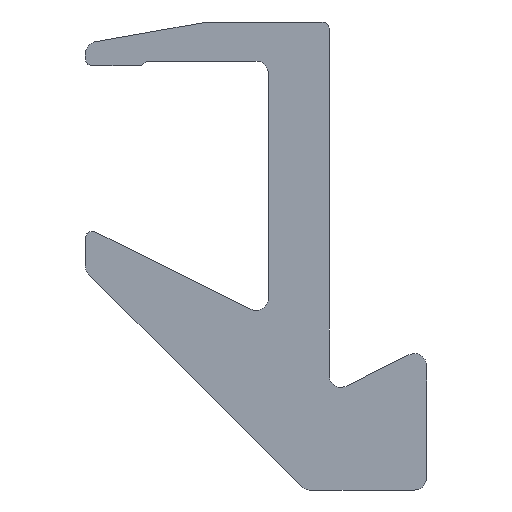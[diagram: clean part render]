
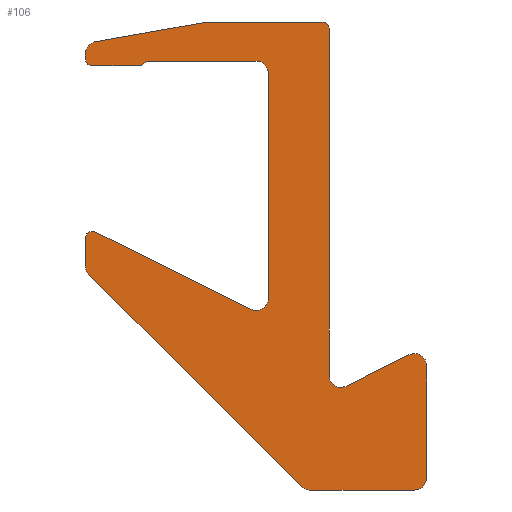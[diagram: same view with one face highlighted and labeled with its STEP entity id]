
A CAD part, left-side view. The second image highlights one B-rep face of the part: STEP entity #106.
In plain terms, the highlighted planar face has unit normal (-1, 0, 0).
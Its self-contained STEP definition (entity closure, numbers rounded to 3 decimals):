
#106=ADVANCED_FACE('',(#206),#207,.F.);
#206=FACE_OUTER_BOUND('',#297,.T.);
#207=PLANE('',#298);
#297=EDGE_LOOP('',(#539,#540,#541,#542,#543,#544,#545,#546,#547,#548,#549,#550,#551,#552,#553,#554,#555,#556,#557,#558,#559,#560,#561,#562,#563,#564));
#298=AXIS2_PLACEMENT_3D('',#565,#566,#567);
#539=ORIENTED_EDGE('',*,*,#626,.F.);
#540=ORIENTED_EDGE('',*,*,#650,.F.);
#541=ORIENTED_EDGE('',*,*,#672,.F.);
#542=ORIENTED_EDGE('',*,*,#669,.F.);
#543=ORIENTED_EDGE('',*,*,#619,.F.);
#544=ORIENTED_EDGE('',*,*,#665,.F.);
#545=ORIENTED_EDGE('',*,*,#642,.F.);
#546=ORIENTED_EDGE('',*,*,#663,.F.);
#547=ORIENTED_EDGE('',*,*,#639,.F.);
#548=ORIENTED_EDGE('',*,*,#569,.F.);
#549=ORIENTED_EDGE('',*,*,#637,.F.);
#550=ORIENTED_EDGE('',*,*,#584,.F.);
#551=ORIENTED_EDGE('',*,*,#623,.F.);
#552=ORIENTED_EDGE('',*,*,#667,.F.);
#553=ORIENTED_EDGE('',*,*,#589,.F.);
#554=ORIENTED_EDGE('',*,*,#646,.F.);
#555=ORIENTED_EDGE('',*,*,#634,.F.);
#556=ORIENTED_EDGE('',*,*,#594,.F.);
#557=ORIENTED_EDGE('',*,*,#579,.F.);
#558=ORIENTED_EDGE('',*,*,#661,.F.);
#559=ORIENTED_EDGE('',*,*,#658,.F.);
#560=ORIENTED_EDGE('',*,*,#630,.F.);
#561=ORIENTED_EDGE('',*,*,#648,.F.);
#562=ORIENTED_EDGE('',*,*,#574,.F.);
#563=ORIENTED_EDGE('',*,*,#656,.F.);
#564=ORIENTED_EDGE('',*,*,#653,.F.);
#565=CARTESIAN_POINT('',(0.0,-3.5,-19.5));
#566=DIRECTION('',(1.0,0.0,0.0));
#567=DIRECTION('',(0.0,1.0,0.0));
#569=EDGE_CURVE('',#675,#676,#677,.T.);
#574=EDGE_CURVE('',#684,#685,#686,.T.);
#579=EDGE_CURVE('',#693,#694,#695,.T.);
#584=EDGE_CURVE('',#702,#703,#704,.T.);
#589=EDGE_CURVE('',#711,#712,#713,.T.);
#594=EDGE_CURVE('',#694,#720,#721,.T.);
#619=EDGE_CURVE('',#762,#763,#764,.T.);
#623=EDGE_CURVE('',#768,#702,#769,.T.);
#626=EDGE_CURVE('',#772,#773,#774,.T.);
#630=EDGE_CURVE('',#778,#779,#780,.T.);
#634=EDGE_CURVE('',#720,#784,#785,.T.);
#637=EDGE_CURVE('',#703,#675,#788,.T.);
#639=EDGE_CURVE('',#676,#790,#791,.T.);
#642=EDGE_CURVE('',#794,#795,#796,.T.);
#646=EDGE_CURVE('',#784,#711,#800,.T.);
#648=EDGE_CURVE('',#685,#778,#802,.T.);
#650=EDGE_CURVE('',#804,#772,#805,.T.);
#653=EDGE_CURVE('',#773,#808,#809,.T.);
#656=EDGE_CURVE('',#808,#684,#812,.T.);
#658=EDGE_CURVE('',#779,#814,#815,.T.);
#661=EDGE_CURVE('',#814,#693,#818,.T.);
#663=EDGE_CURVE('',#790,#794,#820,.T.);
#665=EDGE_CURVE('',#795,#762,#822,.T.);
#667=EDGE_CURVE('',#712,#768,#824,.T.);
#669=EDGE_CURVE('',#763,#826,#827,.T.);
#672=EDGE_CURVE('',#826,#804,#830,.T.);
#675=VERTEX_POINT('',#833);
#676=VERTEX_POINT('',#834);
#677=LINE('',#835,#836);
#684=VERTEX_POINT('',#846);
#685=VERTEX_POINT('',#847);
#686=LINE('',#848,#849);
#693=VERTEX_POINT('',#859);
#694=VERTEX_POINT('',#860);
#695=CIRCLE('',#861,0.5);
#702=VERTEX_POINT('',#870);
#703=VERTEX_POINT('',#871);
#704=LINE('',#872,#873);
#711=VERTEX_POINT('',#883);
#712=VERTEX_POINT('',#884);
#713=LINE('',#885,#886);
#720=VERTEX_POINT('',#896);
#721=LINE('',#897,#898);
#762=VERTEX_POINT('',#950);
#763=VERTEX_POINT('',#951);
#764=CIRCLE('',#952,0.5);
#768=VERTEX_POINT('',#958);
#769=CIRCLE('',#959,0.3);
#772=VERTEX_POINT('',#963);
#773=VERTEX_POINT('',#964);
#774=CIRCLE('',#965,0.5);
#778=VERTEX_POINT('',#971);
#779=VERTEX_POINT('',#972);
#780=LINE('',#973,#974);
#784=VERTEX_POINT('',#980);
#785=CIRCLE('',#981,0.5);
#788=CIRCLE('',#985,0.5);
#790=VERTEX_POINT('',#987);
#791=CIRCLE('',#988,0.5);
#794=VERTEX_POINT('',#992);
#795=VERTEX_POINT('',#993);
#796=CIRCLE('',#994,0.3);
#800=LINE('',#1000,#1001);
#802=CIRCLE('',#1003,0.5);
#804=VERTEX_POINT('',#1005);
#805=LINE('',#1006,#1007);
#808=VERTEX_POINT('',#1011);
#809=LINE('',#1012,#1013);
#812=CIRCLE('',#1017,0.5);
#814=VERTEX_POINT('',#1019);
#815=CIRCLE('',#1020,0.3);
#818=LINE('',#1024,#1025);
#820=LINE('',#1027,#1028);
#822=LINE('',#1030,#1031);
#824=LINE('',#1033,#1034);
#826=VERTEX_POINT('',#1036);
#827=LINE('',#1037,#1038);
#830=CIRCLE('',#1042,0.5);
#833=CARTESIAN_POINT('',(0.0,9.587,-1.609));
#834=CARTESIAN_POINT('',(0.0,5.043,-0.808));
#835=CARTESIAN_POINT('',(0.0,9.587,-1.609));
#836=VECTOR('',#1044,1.0);
#846=CARTESIAN_POINT('',(0.0,1.146,-19.854));
#847=CARTESIAN_POINT('',(0.0,9.854,-11.146));
#848=CARTESIAN_POINT('',(0.0,1.146,-19.854));
#849=VECTOR('',#1048,1.0);
#859=CARTESIAN_POINT('',(0.0,3.223,-12.579));
#860=CARTESIAN_POINT('',(0.0,2.5,-12.131));
#861=AXIS2_PLACEMENT_3D('',#1052,#1053,#1054);
#870=CARTESIAN_POINT('',(0.0,10.,-2.3));
#871=CARTESIAN_POINT('',(0.0,10.,-2.101));
#872=CARTESIAN_POINT('',(0.0,10.,-2.3));
#873=VECTOR('',#1060,1.0);
#883=CARTESIAN_POINT('',(0.0,7.5,-2.4));
#884=CARTESIAN_POINT('',(0.0,7.7,-2.6));
#885=CARTESIAN_POINT('',(0.0,7.5,-2.4));
#886=VECTOR('',#1064,1.0);
#896=CARTESIAN_POINT('',(0.0,2.5,-2.9));
#897=CARTESIAN_POINT('',(0.0,2.5,-12.131));
#898=VECTOR('',#1068,1.0);
#950=CARTESIAN_POINT('',(0.0,0.,-15.286));
#951=CARTESIAN_POINT('',(0.0,-0.723,-15.734));
#952=AXIS2_PLACEMENT_3D('',#1113,#1114,#1115);
#958=CARTESIAN_POINT('',(0.0,9.7,-2.6));
#959=AXIS2_PLACEMENT_3D('',#1118,#1119,#1120);
#963=CARTESIAN_POINT('',(0.0,-4.,-19.5));
#964=CARTESIAN_POINT('',(0.0,-3.5,-20.));
#965=AXIS2_PLACEMENT_3D('',#1122,#1123,#1124);
#971=CARTESIAN_POINT('',(0.0,10.,-10.793));
#972=CARTESIAN_POINT('',(0.0,10.,-9.685));
#973=CARTESIAN_POINT('',(0.0,10.,-10.793));
#974=VECTOR('',#1127,1.0);
#980=CARTESIAN_POINT('',(0.0,3.,-2.4));
#981=AXIS2_PLACEMENT_3D('',#1130,#1131,#1132);
#985=AXIS2_PLACEMENT_3D('',#1134,#1135,#1136);
#987=CARTESIAN_POINT('',(0.0,4.956,-0.8));
#988=AXIS2_PLACEMENT_3D('',#1137,#1138,#1139);
#992=CARTESIAN_POINT('',(0.0,0.3,-0.8));
#993=CARTESIAN_POINT('',(0.0,0.,-1.1));
#994=AXIS2_PLACEMENT_3D('',#1141,#1142,#1143);
#1000=CARTESIAN_POINT('',(0.0,3.,-2.4));
#1001=VECTOR('',#1146,1.0);
#1003=AXIS2_PLACEMENT_3D('',#1147,#1148,#1149);
#1005=CARTESIAN_POINT('',(0.0,-4.,-14.908));
#1006=CARTESIAN_POINT('',(0.0,-4.,-14.908));
#1007=VECTOR('',#1150,1.0);
#1011=CARTESIAN_POINT('',(0.0,0.793,-20.));
#1012=CARTESIAN_POINT('',(0.0,-3.5,-20.));
#1013=VECTOR('',#1152,1.0);
#1017=AXIS2_PLACEMENT_3D('',#1154,#1155,#1156);
#1019=CARTESIAN_POINT('',(0.0,9.566,-9.416));
#1020=AXIS2_PLACEMENT_3D('',#1157,#1158,#1159);
#1024=CARTESIAN_POINT('',(0.0,9.566,-9.416));
#1025=VECTOR('',#1161,1.0);
#1027=CARTESIAN_POINT('',(0.0,4.956,-0.8));
#1028=VECTOR('',#1162,1.0);
#1030=CARTESIAN_POINT('',(0.0,0.,-1.1));
#1031=VECTOR('',#1163,1.0);
#1033=CARTESIAN_POINT('',(0.0,7.7,-2.6));
#1034=VECTOR('',#1164,1.0);
#1036=CARTESIAN_POINT('',(0.0,-3.277,-14.461));
#1037=CARTESIAN_POINT('',(0.0,-0.723,-15.734));
#1038=VECTOR('',#1165,1.0);
#1042=AXIS2_PLACEMENT_3D('',#1167,#1168,#1169);
#1044=DIRECTION('',(0.0,-0.985,0.174));
#1048=DIRECTION('',(0.0,0.707,0.707));
#1052=CARTESIAN_POINT('',(0.0,3.,-12.131));
#1053=DIRECTION('',(-1.0,0.0,0.0));
#1054=DIRECTION('',(0.0,-1.0,0.0));
#1060=DIRECTION('',(0.0,0.0,1.0));
#1064=DIRECTION('',(0.0,0.707,-0.707));
#1068=DIRECTION('',(0.0,0.0,1.0));
#1113=CARTESIAN_POINT('',(0.0,-0.5,-15.286));
#1114=DIRECTION('',(-1.0,0.0,0.0));
#1115=DIRECTION('',(0.0,-1.0,0.0));
#1118=CARTESIAN_POINT('',(0.0,9.7,-2.3));
#1119=DIRECTION('',(1.0,0.0,0.0));
#1120=DIRECTION('',(0.0,1.0,0.0));
#1122=CARTESIAN_POINT('',(0.0,-3.5,-19.5));
#1123=DIRECTION('',(1.0,0.0,0.0));
#1124=DIRECTION('',(0.0,1.0,0.0));
#1127=DIRECTION('',(0.0,0.,1.0));
#1130=CARTESIAN_POINT('',(0.0,3.,-2.9));
#1131=DIRECTION('',(-1.0,0.0,0.0));
#1132=DIRECTION('',(0.0,-1.0,0.0));
#1134=CARTESIAN_POINT('',(0.0,9.5,-2.101));
#1135=DIRECTION('',(1.0,0.0,0.0));
#1136=DIRECTION('',(0.0,1.0,0.0));
#1137=CARTESIAN_POINT('',(0.0,4.956,-1.3));
#1138=DIRECTION('',(1.0,0.0,0.0));
#1139=DIRECTION('',(0.0,1.0,0.0));
#1141=CARTESIAN_POINT('',(0.0,0.3,-1.1));
#1142=DIRECTION('',(1.0,0.0,0.0));
#1143=DIRECTION('',(0.0,1.0,0.0));
#1146=DIRECTION('',(0.0,1.0,0.0));
#1147=CARTESIAN_POINT('',(0.0,9.5,-10.793));
#1148=DIRECTION('',(1.0,0.0,0.0));
#1149=DIRECTION('',(0.0,1.0,0.0));
#1150=DIRECTION('',(0.0,0.0,-1.0));
#1152=DIRECTION('',(0.0,1.0,0.0));
#1154=CARTESIAN_POINT('',(0.0,0.793,-19.5));
#1155=DIRECTION('',(1.0,0.0,0.0));
#1156=DIRECTION('',(0.0,1.0,0.0));
#1157=CARTESIAN_POINT('',(0.0,9.7,-9.685));
#1158=DIRECTION('',(1.0,0.0,0.0));
#1159=DIRECTION('',(0.0,1.0,0.0));
#1161=DIRECTION('',(0.0,-0.895,-0.446));
#1162=DIRECTION('',(0.0,-1.0,0.));
#1163=DIRECTION('',(0.0,0.0,-1.0));
#1164=DIRECTION('',(0.0,1.0,0.));
#1165=DIRECTION('',(0.0,-0.895,0.446));
#1167=CARTESIAN_POINT('',(0.0,-3.5,-14.908));
#1168=DIRECTION('',(1.0,0.0,0.0));
#1169=DIRECTION('',(0.0,1.0,0.0));
